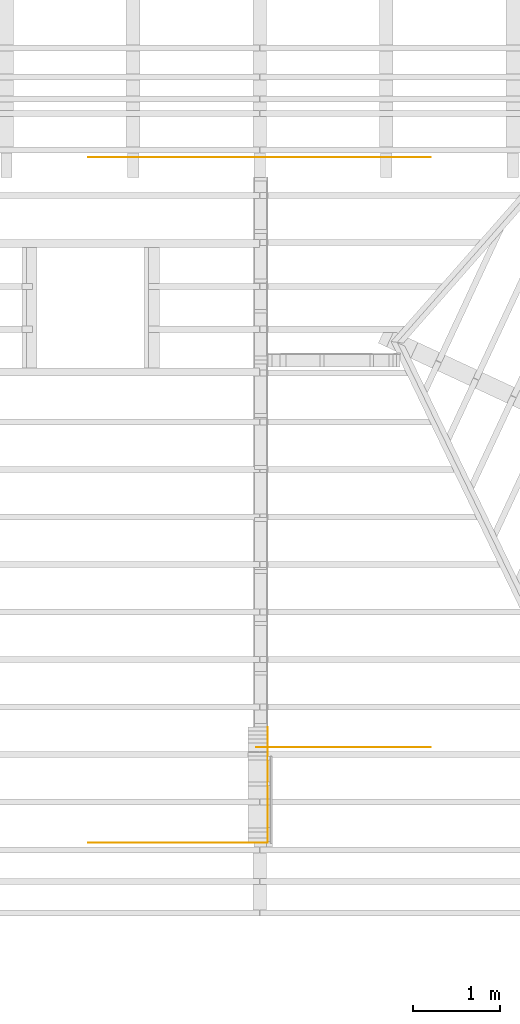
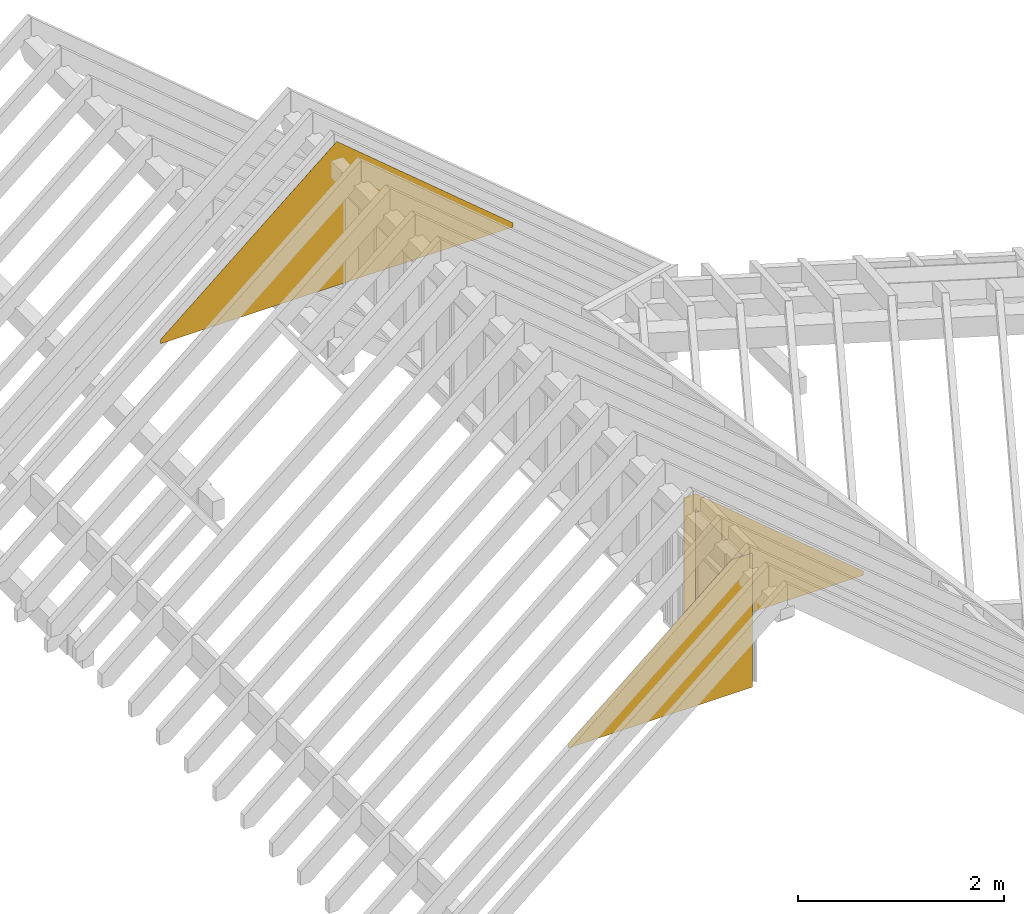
# One storey, part 11 of 11: 4 curtain walls.
"""IFC2X3 building model written with IfcOpenShell, lengths in metres."""

from ifc_helpers import new_model, si_unit, direction, frame, origin_with_axes, place, context, subcontext, project, spatial, faceted_brep, material, element, save


model = new_model("IFC2X3")

# Units and contexts
model_context = context("Model", 3, precision=1e-06, world=origin_with_axes(), true_north=direction((0.0, 1.0, 0.0)))
body_context = subcontext(model_context, "Body", "Model", "MODEL_VIEW")
ifc_project = project(units=[si_unit("LENGTHUNIT", "METRE"), si_unit("AREAUNIT", "SQUARE_METRE"), si_unit("VOLUMEUNIT", "CUBIC_METRE"), si_unit("PLANEANGLEUNIT", "RADIAN")], contexts=[model_context])

# Site, building, storey
site_placement = place(None, origin_with_axes())
site = spatial("IfcSite", under=ifc_project, at=site_placement, CompositionType="ELEMENT")
building_placement = place(site_placement, origin_with_axes())
building = spatial("IfcBuilding", under=site, at=building_placement, Name="Building 1", CompositionType="ELEMENT")
storey_placement = place(building_placement, origin_with_axes())
storey = spatial("IfcBuildingStorey", under=building, at=storey_placement, Name="Comble et couverture", CompositionType="ELEMENT", Elevation=0.0)

# Curtain walls
ifc_material = material(Name="pare-pluie")
curtain_wall_1_placement = place(storey_placement, frame((4.3226226, 1.1002781, 5.5304713), z_axis=(0.0, 0.0, 1.0), x_axis=(0.0, 1.0, 0.0)))
element("IfcCurtainWall", 1, at=curtain_wall_1_placement, inside=storey, material=ifc_material, Name="Pare-pluie", context=body_context, shape_type="Brep", body=[
    faceted_brep([(0.00045, 1.0066226, 0.0), (0.00045, -1.0066226, 0.0), (-0.00045, -1.0066226, 0.0), (-0.00045, 1.0066226, 0.0), (0.00045, -1.0066226, 0.05), (-0.00045, -1.0066226, 0.05), (0.00045, 1.0066226, 1.6285522), (0.00045, 0.8746226, 1.6285522), (-0.00045, 0.8746226, 1.6285522), (-0.00045, 1.0066226, 1.6285522)], [[[0, 1, 2, 3]], [[2, 1, 4, 5]], [[1, 0, 6, 7, 4]], [[5, 4, 7, 8]], [[0, 3, 9, 6]], [[8, 7, 6, 9]], [[3, 2, 5, 8, 9]]]),
])
curtain_wall_2_placement = place(storey_placement, frame((3.44855, 0.6663641, 5.5304713), z_axis=(0.0, 0.0, 1.0), x_axis=(0.0, -1.0, 0.0)))
element("IfcCurtainWall", 2, at=curtain_wall_2_placement, inside=storey, material=ifc_material, Name="Pare-pluie", context=body_context, shape_type="Brep", body=[
    faceted_brep([(0.6664641, -0.00045, 0.0), (0.6664641, 0.00045, 0.0), (0.6664641, 0.00045, 1.45), (0.6664641, -0.00045, 1.45), (-0.6664641, 0.00045, 0.0), (-0.6664641, 0.00045, 1.45), (-0.6664641, -0.00045, 0.0), (-0.6664641, -0.00045, 1.45)], [[[0, 1, 2, 3]], [[2, 1, 4, 5]], [[1, 0, 6, 4]], [[4, 6, 7, 5]], [[0, 3, 7, 6]], [[3, 2, 5, 7]]]),
])
curtain_wall_3_placement = place(storey_placement, frame((3.3539187, 7.90855, 5.5304713), z_axis=(0.0, 0.0, 1.0), x_axis=(1.0, 0.0, 0.0)))
element("IfcCurtainWall", 3, at=curtain_wall_3_placement, inside=storey, material=ifc_material, Name="Pare-pluie", context=body_context, shape_type="Brep", body=[
    faceted_brep([(-1.9753266, 0.00045, 0.0), (1.9753266, 0.00045, 0.0), (1.9753266, -0.00045, 0.0), (-1.9753266, -0.00045, 0.0), (1.9753266, 0.00045, 0.05), (1.9753266, -0.00045, 0.05), (-1.9753266, 0.00045, 0.05), (0.0, 0.00045, 1.7074958), (-1.9753266, -0.00045, 0.05), (0.0, -0.00045, 1.7074958)], [[[0, 1, 2, 3]], [[2, 1, 4, 5]], [[1, 0, 6, 7, 4]], [[7, 6, 8, 9]], [[4, 7, 9, 5]], [[0, 3, 8, 6]], [[3, 2, 5, 9, 8]]]),
])
curtain_wall_4_placement = place(storey_placement, frame((2.413346, -0.00055, 5.5304713), z_axis=(0.0, 0.0, 1.0), x_axis=(-1.0, 0.0, 0.0)))
element("IfcCurtainWall", 4, at=curtain_wall_4_placement, inside=storey, material=ifc_material, Name="Pare-pluie", context=body_context, shape_type="Brep", body=[
    faceted_brep([(-1.034754, 0.00045, 0.0), (-1.034754, -0.00045, 0.0), (-1.034754, -0.00045, 1.5917683), (-1.034754, 0.00045, 1.5917683), (1.034754, -0.00045, 0.0), (1.034754, -0.00045, 0.05), (-0.802654, -0.00045, 1.5917683), (1.034754, 0.00045, 0.0), (1.034754, 0.00045, 0.05), (-0.802654, 0.00045, 1.5917683)], [[[0, 1, 2, 3]], [[2, 1, 4, 5, 6]], [[1, 0, 7, 4]], [[4, 7, 8, 5]], [[0, 3, 9, 8, 7]], [[5, 8, 9, 6]], [[3, 2, 6, 9]]]),
])

save(model, "model.ifc")
